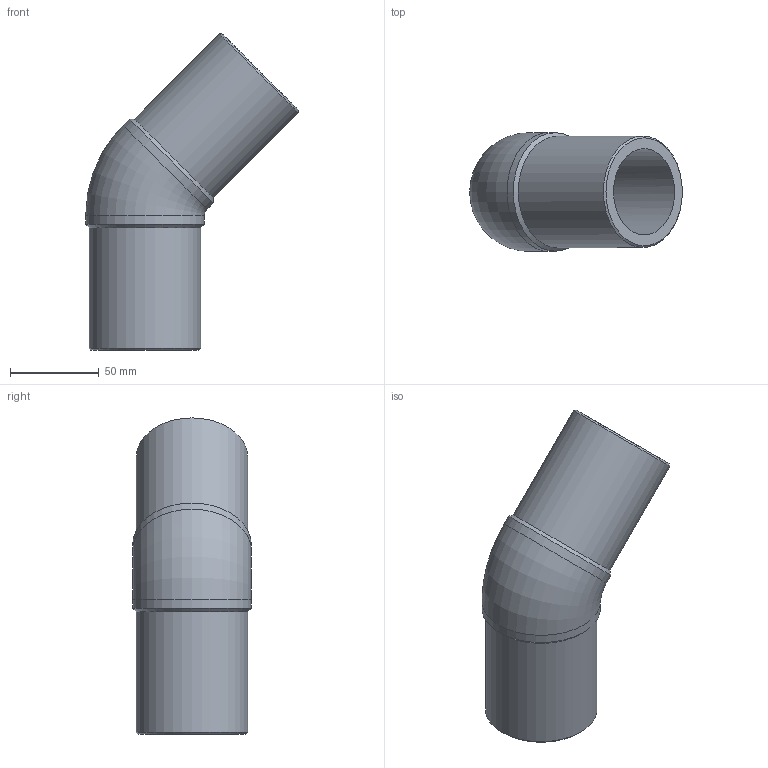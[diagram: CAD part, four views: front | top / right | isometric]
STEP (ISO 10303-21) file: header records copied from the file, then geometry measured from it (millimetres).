
FILE_DESCRIPTION(/* description */ ('Unknown'),/* implementation_level */ '2;1');
FILE_NAME(/* name */ 'G4P063G',/* time_stamp */ '2022-01-21T09:03:39+01:00',/* author */ ('Unknown'),/* organization */ ('Unknown'),/* preprocessor_version */ 'ST-DEVELOPER v18.1',/* originating_system */ 'Solid Edge',/* authorisation */ 'Unknown');
FILE_SCHEMA (('AUTOMOTIVE_DESIGN {1 0 10303 214 3 1 1}'));
Length unit declared in the file: millimetre
Products named in the file (1): G4P063G
Bounding box: 120.12 x 67 x 178.62 mm (x, y, z)
Volume: 244866.4 mm3; surface area: 67184.1 mm2
Topology: 1 solids, 1 shells, 14 faces, 34 edges, 22 vertices
Faces by surface type: cylinder 6, cone 4, plane 2, torus 2
Full cylindrical faces by diameter (mm): 48.8 x2, 63 x2, 67 x2
Entity records: 364 total; most frequent: CARTESIAN_POINT 64, DIRECTION 60, ORIENTED_EDGE 38, AXIS2_PLACEMENT_3D 30, EDGE_LOOP 27, FACE_BOUND 27, EDGE_CURVE 19, VERTEX_POINT 18
